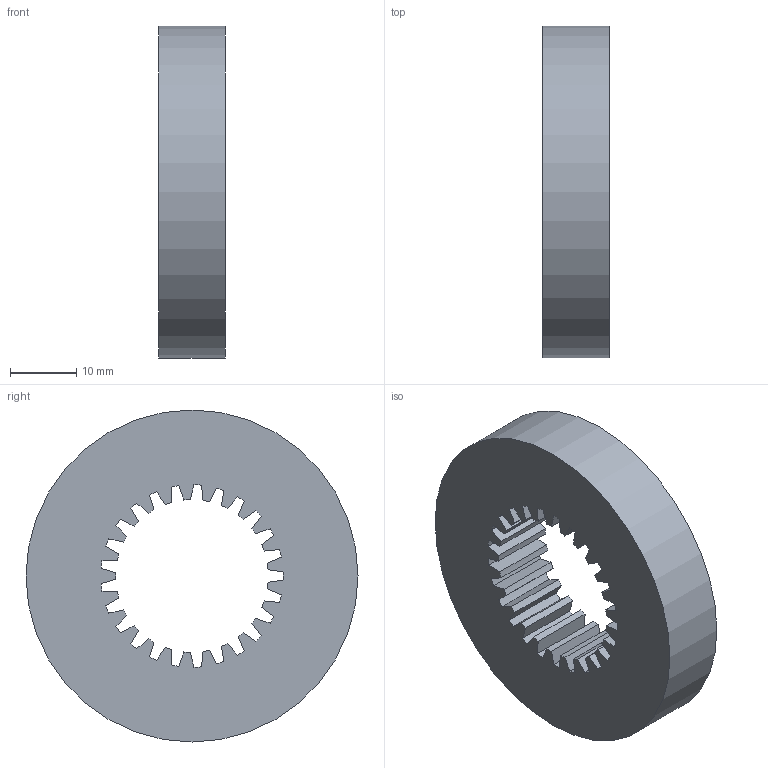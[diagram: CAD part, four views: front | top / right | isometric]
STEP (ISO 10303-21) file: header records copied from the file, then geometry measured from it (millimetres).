
FILE_DESCRIPTION( ( 'STEP AP214' ), '1' );
FILE_NAME( 'C:/Users/StangenbergN/Documents/CAD_Step/1/22442500.stp', '2019-11-27T11:32:26', ( '' ), ( '' ), ' ', 'PARTsolutions', ' ' );
FILE_SCHEMA( ( 'AUTOMOTIVE_DESIGN { 1 0 10303 214 1 1 1 1 }' ) );
Length unit declared in the file: millimetre
Products named in the file (1): _22442500
Bounding box: 10 x 50 x 50 mm (x, y, z)
Volume: 14618.8 mm3; surface area: 6190.2 mm2
Topology: 1 solids, 1 shells, 103 faces, 303 edges, 202 vertices
Faces by surface type: plane 52, cylinder 51
Full cylindrical faces by diameter (mm): 50 x1
Entity records: 4298 total; most frequent: DIRECTION 612, CARTESIAN_POINT 608, ORIENTED_EDGE 604, EDGE_CURVE 302, AXIS2_PLACEMENT_3D 206, VERTEX_POINT 202, LINE 200, VECTOR 200
